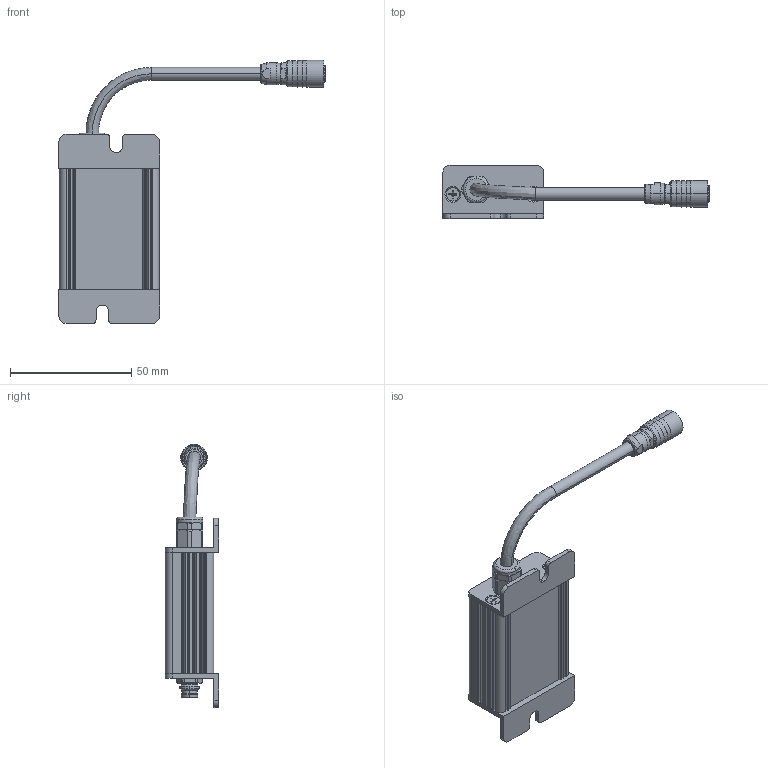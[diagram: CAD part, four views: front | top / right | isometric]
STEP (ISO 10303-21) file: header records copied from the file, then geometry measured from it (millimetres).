
FILE_DESCRIPTION (( 'STEP AP203' ), '1' );
FILE_NAME ('104141_02 (Part) (16-09-2016).STEP', '2016-09-16T13:04:10', ( '' ), ( '' ), 'SwSTEP 2.0', 'SolidWorks 2016', '' );
FILE_SCHEMA (( 'CONFIG_CONTROL_DESIGN' ));
Length unit declared in the file: millimetre
Products named in the file (1): 104141_02 (Part) (16-09-2016)
Bounding box: 109.75 x 22 x 108.5 mm (x, y, z)
Volume: 21814 mm3; surface area: 25625.2 mm2
Topology: 1 solids, 5 shells, 1220 faces, 3266 edges, 2093 vertices
Faces by surface type: cylinder 447, plane 383, bspline 183, cone 181, torus 26
Entity records: 47417 total; most frequent: CARTESIAN_POINT 17827, ORIENTED_EDGE 6516, DIRECTION 5863, EDGE_CURVE 3258, AXIS2_PLACEMENT_3D 2261, VERTEX_POINT 2093, VECTOR 1341, LINE 1341
